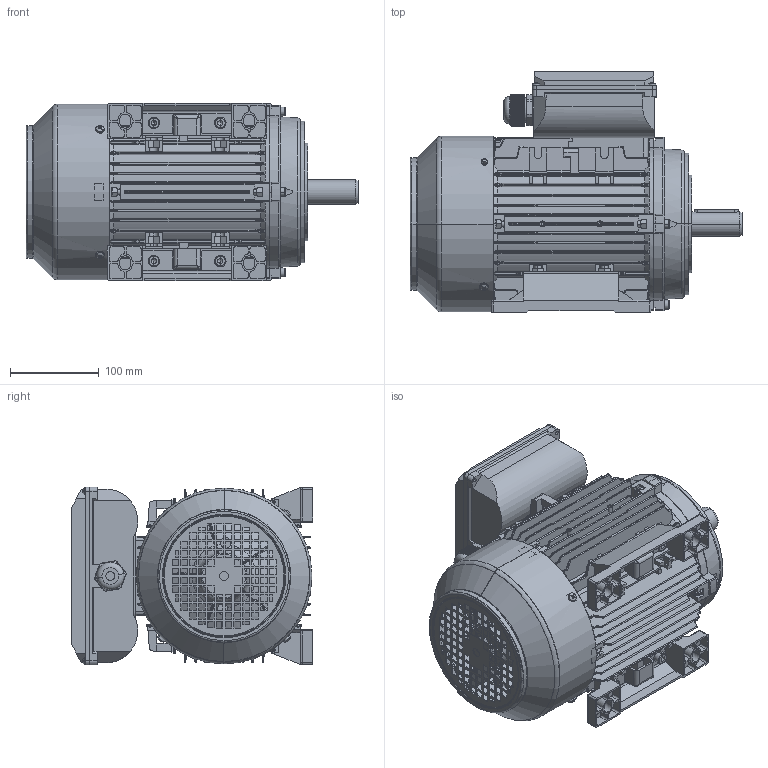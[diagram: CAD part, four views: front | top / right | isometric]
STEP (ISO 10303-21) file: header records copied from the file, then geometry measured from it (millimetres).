
FILE_DESCRIPTION (( 'STEP AP203' ), '1' );
FILE_NAME ('ML2 100 B34(臏諉盄碟).STEP', '2024-01-20T08:32:35', ( '' ), ( '' ), 'SwSTEP 2.0', 'SolidWorks 2016', '' );
FILE_SCHEMA (( 'CONFIG_CONTROL_DESIGN' ));
Length unit declared in the file: millimetre
Products named in the file (19): hexagon nuts grade c gb_GB_FASTENER_NUT_SNC1 M6-N; TA100綴傷裔; TA100B14楊擘1; 100蛌粣; ML2 100 B34(臏諉盄碟); ML112諉盄碟蚾饜极; T100菁褐; 112-132堤盄蹟杶; T100儂褲; y2瑞珔100#; TA100瑞欶; ML100-ML112諉盄碟釱(臏); cross recessed thread forming screws gb_GB_CROSS_SCREWS_TYPE138 M5X12-N; plain parallel keys_GB_CONNECTING_PIECE_KEYS_CSK 8X50; cross recessed thread forming screws gb_GB_CROSS_SCREWS_TYPE138 M4X10-N; hexagon socket head cap screws gb_GB_FASTENER_SCREWS_HSHCS M8X25-N; hexagon socket head cap screws gb_GB_FASTENER_SCREWS_HSHCS M6X30-N; hexagon nuts grade c gb_GB_FASTENER_NUT_SNC1 M8-N; ML100-ML112諉盄碟裔(臏)
Assembly tree (40 placements, depth 3):
  ML2 100 B34(臏諉盄碟)
    T100儂褲
    T100菁褐  x2
    TA100瑞欶
    100蛌粣
    TA100綴傷裔
    hexagon nuts grade c gb_GB_FASTENER_NUT_SNC1 M8-N  x4
    hexagon nuts grade c gb_GB_FASTENER_NUT_SNC1 M6-N  x6
    hexagon socket head cap screws gb_GB_FASTENER_SCREWS_HSHCS M8X25-N  x4
    hexagon socket head cap screws gb_GB_FASTENER_SCREWS_HSHCS M6X30-N  x6
    cross recessed thread forming screws gb_GB_CROSS_SCREWS_TYPE138 M5X12-N  x3
    plain parallel keys_GB_CONNECTING_PIECE_KEYS_CSK 8X50
    y2瑞珔100#
    TA100B14楊擘1
    ML112諉盄碟蚾饜极
      112-132堤盄蹟杶
      cross recessed thread forming screws gb_GB_CROSS_SCREWS_TYPE138 M4X10-N  x4
      ML100-ML112諉盄碟釱(臏)
      ML100-ML112諉盄碟裔(臏)
Bounding box: 375 x 272.5 x 201 mm (x, y, z)
Volume: 1993730.6 mm3; surface area: 1210049 mm2
Topology: 39 solids, 39 shells, 4761 faces, 12800 edges, 8101 vertices
Faces by surface type: plane 2484, cylinder 1194, bspline 595, cone 307, torus 159, sphere 22
Entity records: 154174 total; most frequent: CARTESIAN_POINT 53366, ORIENTED_EDGE 22306, DIRECTION 18044, EDGE_CURVE 11153, VERTEX_POINT 7135, LINE 6126, VECTOR 6126, AXIS2_PLACEMENT_3D 5959
